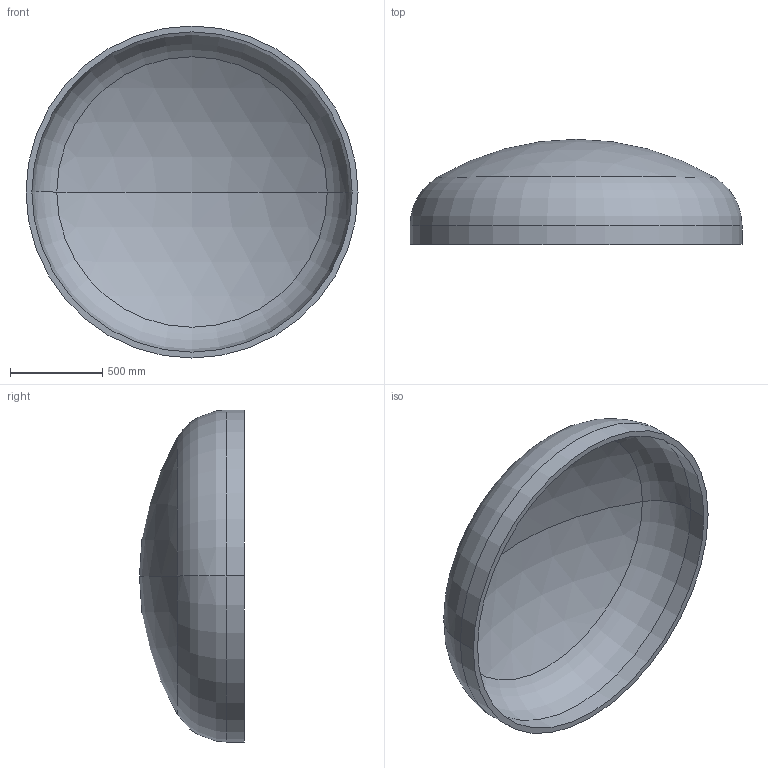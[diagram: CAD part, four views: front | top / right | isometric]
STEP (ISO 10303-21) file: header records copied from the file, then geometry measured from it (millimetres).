
FILE_DESCRIPTION (( 'STEP AP203' ), '1' );
FILE_NAME ('DIN 28013 Korbbogenform_-_Boden DIN 28013 - 1800 x 100 - I - s=32.step', '2016-07-01T12:26:23', ( '' ), ( '' ), 'SwSTEP 2.0', 'SolidWorks 2013', '' );
FILE_SCHEMA (( 'CONFIG_CONTROL_DESIGN' ));
Length unit declared in the file: millimetre
Products named in the file (1): DIN 28013 Korbbogenform_-_Boden DIN 28013 - 1800 x 100 - I - s=32
Bounding box: 1800 x 569.22 x 1800 mm (x, y, z)
Volume: 127767496 mm3; surface area: 8165349.3 mm2
Topology: 1 solids, 1 shells, 13 faces, 24 edges, 14 vertices
Faces by surface type: torus 4, cylinder 4, sphere 4, plane 1
Entity records: 407 total; most frequent: DIRECTION 72, CARTESIAN_POINT 52, ORIENTED_EDGE 48, AXIS2_PLACEMENT_3D 34, EDGE_CURVE 24, CIRCLE 20, EDGE_LOOP 14, VERTEX_POINT 14
